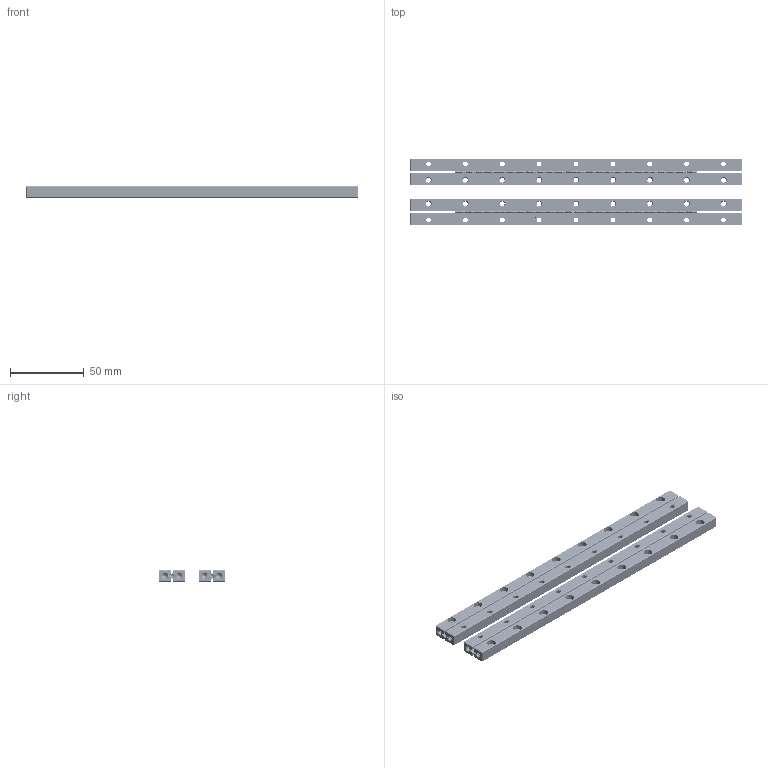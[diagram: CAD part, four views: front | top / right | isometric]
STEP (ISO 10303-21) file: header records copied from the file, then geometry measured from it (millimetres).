
FILE_DESCRIPTION(/* description */ (''),/* implementation_level */ '2;1');
FILE_NAME(/* name */ 'Set RSDE-3225x46KRE-ACC.stp',/* time_stamp */ '2018-12-19T13:23:21+01:00',/* author */ (''),/* organization */ (''),/* preprocessor_version */ 'ST-DEVELOPER v16.7',/* originating_system */ 'SIEMENS PLM Software NX 12.0',/* authorisation */ '');
FILE_SCHEMA (('AUTOMOTIVE_DESIGN { 1 0 10303 214 3 1 1 1 }'));
Products named in the file (1): rhn11EC67B6z24z
Bounding box: 225 x 45 x 8 mm (x, y, z)
Volume: 54830.5 mm3; surface area: 46709.8 mm2
Topology: 116 solids, 116 shells, 5700 faces, 16098 edges, 10570 vertices
Faces by surface type: plane 2636, cylinder 1988, torus 936, extrusion 72, cone 68
Full cylindrical faces by diameter (mm): 0.45 x400, 1 x8, 2 x92, 2.6 x8, 3 x92, 3.2 x44, 6 x36
Entity records: 187424 total; most frequent: CARTESIAN_POINT 39053, DIRECTION 31338, ORIENTED_EDGE 29600, EDGE_CURVE 14800, AXIS2_PLACEMENT_3D 11565, VERTEX_POINT 10208, VECTOR 8208, LINE 8136
